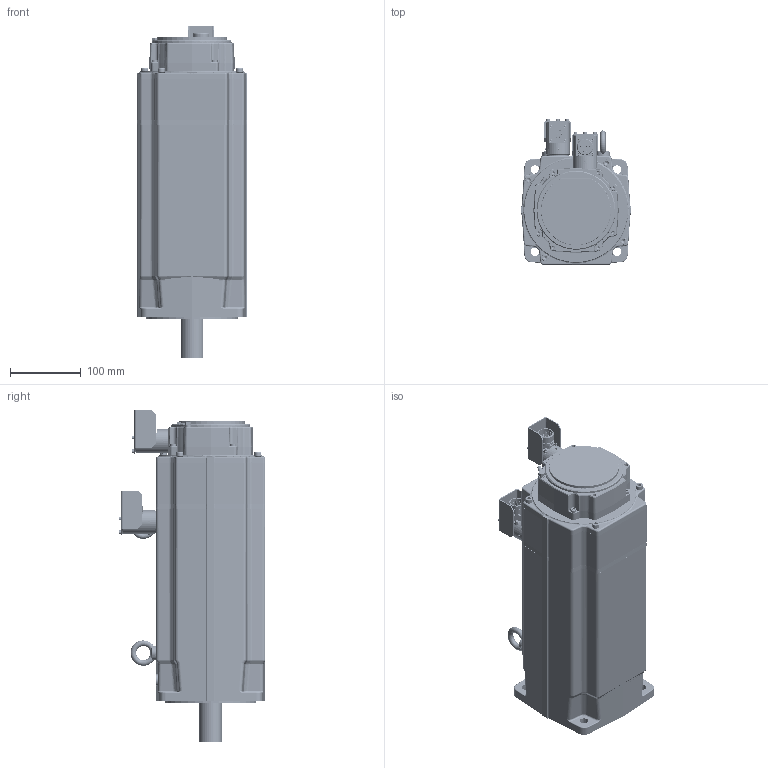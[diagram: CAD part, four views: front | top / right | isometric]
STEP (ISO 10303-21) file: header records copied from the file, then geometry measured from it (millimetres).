
FILE_DESCRIPTION((''),'2;1');
FILE_NAME('EY860EAR7310_ASM','2016-11-14T',('pf73167'),(''),'PRO/ENGINEER BY PARAMETRIC TECHNOLOGY CORPORATION, 2009400','PRO/ENGINEER BY PARAMETRIC TECHNOLOGY CORPORATION, 2009400','');
FILE_SCHEMA(('CONFIG_CONTROL_DESIGN'));
Length unit declared in the file: millimetre
Products named in the file (65): 344458P0008; 5340P0036; 5116P1319; 1150P0512; 301026P0003; 344463P0006; 344232P0004; 344212P0003; 344232P0004_ASM; 344461R0006_ASM; 5116P1327; 1640P0001; 344440P0003; 344231P0004; BOB_344465R6000; 344465R6000_ASM; 344466R6000_ASM; SURMOULAGE_344467R6001; 344467R6001_ASM; 1711P0002; 5320P0029; 1613P0081; 1613P0082; 1314P0408; 283154_08_P1F101_AF0; 283154_08_P1F501_AF0; 283154P0040_ASM; 1150P0608; 300025P0004; 344455P0001; 344459P0026; 5340P0071; 1150P0625; 282280P0012; 1613P0034; 1613P0035; 220005P1002; 344509P0001; 1643P0104; 1143P0405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
Assembly tree (137 placements, depth 5):
  EY860EAR7310_ASM
    344458P0008
    5340P0036  x3
    5116P1319
    1150P0512  x3
    301026P0003
    344461R0006_ASM
      344463P0006
      344232P0004_ASM
        344232P0004
        344212P0003  x2
    5116P1327
    1640P0001  x3
    344467R6001_ASM
      344440P0003
      344466R6000_ASM
        344465R6000_ASM
          344231P0004
          BOB_344465R6000
      SURMOULAGE_344467R6001
    1711P0002
    5320P0029
    1613P0081  x2
    1613P0082  x2
    1314P0408
    283154P0040_ASM
      283154_08_P1F101_AF0
      283154_08_P1F501_AF0
    1150P0608  x4
    300025P0004
    344455P0001
    344459P0026
    5340P0071
    1150P0625  x4
    282280P0012
    1613P0034  x2
    1613P0035  x2
    220005P1002
    344509P0001
    1643P0104  x3
    1143P0405  x3
    344191P0021
    1143P0510  x4
    1190P0001  x2
    6942P0012
    345359R1010_800_ASM
      345359P0002
      5340P0124
      5340P0125
      1150P0204  x8
      345359P0001
      1170P0042  x4
      220132P1010_ASM
        220132P1010_0001
        220132P1010_0002
        220132P0111  x4
        220132P0120  x3
      345359P0003
      1150P0305  x3
    345359R1020_800_ASM
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Bounding box: 157 x 207.7 x 470.9 mm (x, y, z)
Volume: 6546229.6 mm3; surface area: 1348277.4 mm2
Topology: 135 solids, 164 shells, 6677 faces, 15640 edges, 9549 vertices
Faces by surface type: plane 2312, cylinder 2151, cone 1009, bspline 735, torus 404, sphere 66
Entity records: 170247 total; most frequent: CARTESIAN_POINT 57496, ORIENTED_EDGE 23446, DIRECTION 22792, EDGE_CURVE 11723, AXIS2_PLACEMENT_3D 8641, VERTEX_POINT 7354, EDGE_LOOP 5521, VECTOR 5510
